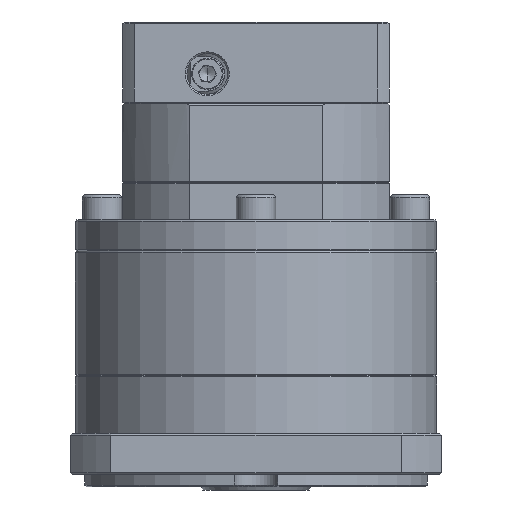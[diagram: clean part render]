
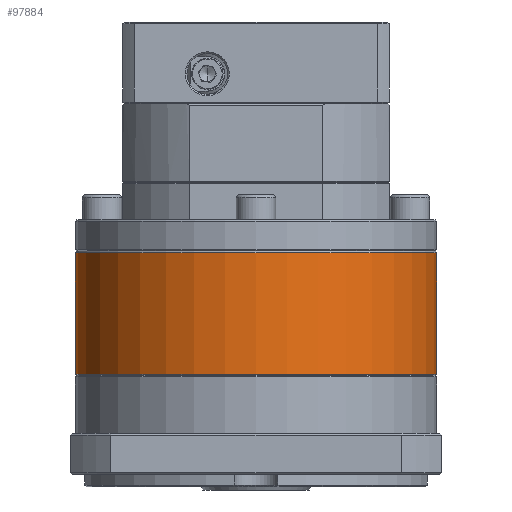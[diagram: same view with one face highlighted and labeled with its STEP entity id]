
A CAD part, front view. The second image highlights one B-rep face of the part: STEP entity #97884.
In plain terms, the highlighted cylindrical face has radius 57.5 mm (diameter 115 mm), a partial arc.
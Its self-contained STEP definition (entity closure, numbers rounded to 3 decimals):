
#3323 = FACE_OUTER_BOUND ( 'NONE', #14767, .T. ) ;
#5337 = DIRECTION ( 'NONE',  ( 0., 0., -1. ) ) ;
#8750 = LINE ( 'NONE', #26092, #63086 ) ;
#14139 = ORIENTED_EDGE ( 'NONE', *, *, #42865, .F. ) ;
#14767 = EDGE_LOOP ( 'NONE', ( #14139, #97168, #24354, #24040 ) ) ;
#15183 = CIRCLE ( 'NONE', #30524, 57.5 ) ;
#15687 = CARTESIAN_POINT ( 'NONE',  ( 13.61, 73.645, -85.605 ) ) ;
#23810 = CIRCLE ( 'NONE', #43623, 57.5 ) ;
#24040 = ORIENTED_EDGE ( 'NONE', *, *, #104624, .T. ) ;
#24354 = ORIENTED_EDGE ( 'NONE', *, *, #108343, .T. ) ;
#26092 = CARTESIAN_POINT ( 'NONE',  ( 128.61, 73.645, -85.105 ) ) ;
#27538 = DIRECTION ( 'NONE',  ( 0., 0., -1. ) ) ;
#29986 = DIRECTION ( 'NONE',  ( -1., 0., 0. ) ) ;
#30524 = AXIS2_PLACEMENT_3D ( 'NONE', #54438, #38169, #29986 ) ;
#30940 = CARTESIAN_POINT ( 'NONE',  ( 13.61, 73.645, -124.317 ) ) ;
#32330 = VECTOR ( 'NONE', #62836, 1000. ) ;
#36097 = VERTEX_POINT ( 'NONE', #47212 ) ;
#36733 = DIRECTION ( 'NONE',  ( -1., 0., 0. ) ) ;
#37380 = CARTESIAN_POINT ( 'NONE',  ( 13.61, 73.645, -85.105 ) ) ;
#37492 = DIRECTION ( 'NONE',  ( 0., 0., -1. ) ) ;
#38169 = DIRECTION ( 'NONE',  ( 0., 0., 1. ) ) ;
#42865 = EDGE_CURVE ( 'NONE', #36097, #71168, #8750, .T. ) ;
#43623 = AXIS2_PLACEMENT_3D ( 'NONE', #57549, #5337, #73308 ) ;
#47212 = CARTESIAN_POINT ( 'NONE',  ( 128.61, 73.645, -85.605 ) ) ;
#54438 = CARTESIAN_POINT ( 'NONE',  ( 71.11, 73.645, -124.317 ) ) ;
#57549 = CARTESIAN_POINT ( 'NONE',  ( 71.11, 73.645, -85.605 ) ) ;
#61900 = CARTESIAN_POINT ( 'NONE',  ( 128.61, 73.645, -124.317 ) ) ;
#62205 = CARTESIAN_POINT ( 'NONE',  ( 71.11, 73.645, -85.105 ) ) ;
#62836 = DIRECTION ( 'NONE',  ( 0., 0., -1. ) ) ;
#62914 = AXIS2_PLACEMENT_3D ( 'NONE', #62205, #37492, #36733 ) ;
#63086 = VECTOR ( 'NONE', #27538, 1000. ) ;
#71168 = VERTEX_POINT ( 'NONE', #61900 ) ;
#73308 = DIRECTION ( 'NONE',  ( -1., 0., 0. ) ) ;
#78174 = VERTEX_POINT ( 'NONE', #30940 ) ;
#78727 = CYLINDRICAL_SURFACE ( 'NONE', #62914, 57.5 ) ;
#80858 = EDGE_CURVE ( 'NONE', #36097, #80925, #23810, .T. ) ;
#80925 = VERTEX_POINT ( 'NONE', #15687 ) ;
#87736 = LINE ( 'NONE', #37380, #32330 ) ;
#97168 = ORIENTED_EDGE ( 'NONE', *, *, #80858, .T. ) ;
#97884 = ADVANCED_FACE ( 'NONE', ( #3323 ), #78727, .T. ) ;
#104624 = EDGE_CURVE ( 'NONE', #78174, #71168, #15183, .T. ) ;
#108343 = EDGE_CURVE ( 'NONE', #80925, #78174, #87736, .T. ) ;
